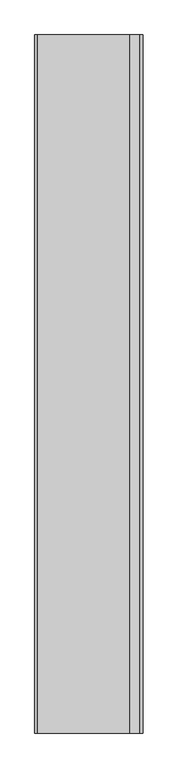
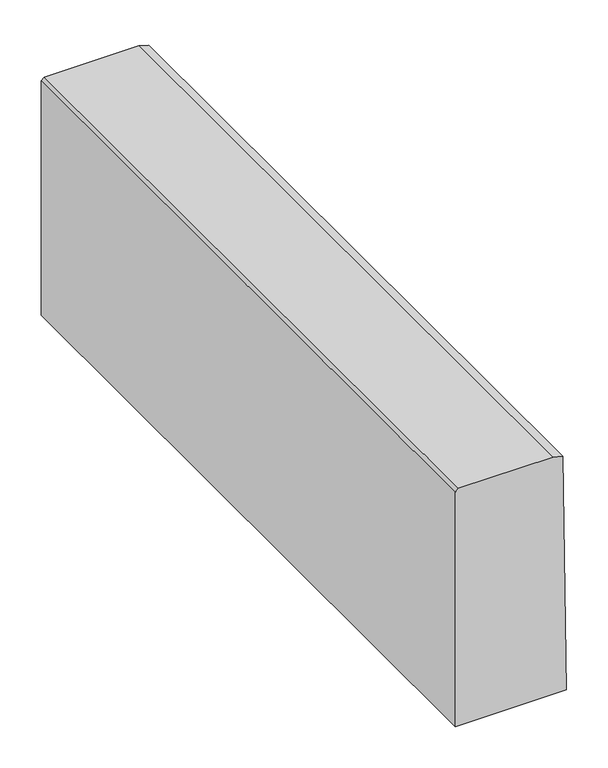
"""IFC4 building model written with IfcOpenShell, lengths in millimetres: railing geometry, BORDILLO_A81_TITAN_80x35x15."""

import ifcopenshell
import ifcopenshell.guid

model = None  # the IFC model being written
_history = None  # IfcOwnerHistory: only IFC2X3 demands one
_inside = {}  # id of a spatial element -> (the spatial element, [elements in it])
_under = {}  # id of a project, library or spatial element -> (it, [spatial elements below it])
_declared = {}  # id of a project -> (the project, [libraries it declares])
_typed = {}  # id of a type object -> (the type object, [elements of that type])
_made_of = {}  # id of a material, layer set ... -> (it, [elements and type objects made of it])


def new_model(schema):
    """Start an empty IFC model of exactly this schema.

    Asked for "IFC4X3", IfcOpenShell would pick the latest addendum, in which some entities
    have other attributes; the version numbers below select the first issue.
    IFC2X3 requires an IfcOwnerHistory on every rooted entity: one is made here for all.
    """
    global model, _history
    if schema == "IFC4X3":
        model = ifcopenshell.file(schema_version=(4, 3, 0, 0))
    else:
        model = ifcopenshell.file(schema=schema)
    _inside.clear()
    _under.clear()
    _declared.clear()
    _typed.clear()
    _made_of.clear()
    _history = None
    if model.schema == "IFC2X3":
        org = make("IfcOrganization", Name="unknown")
        user = make(
            "IfcPersonAndOrganization",
            ThePerson=make("IfcPerson", FamilyName="unknown"),
            TheOrganization=org,
        )
        app = make(
            "IfcApplication",
            ApplicationDeveloper=org,
            Version="unknown",
            ApplicationFullName="unknown",
            ApplicationIdentifier="unknown",
        )
        _history = make(
            "IfcOwnerHistory",
            OwningUser=user,
            OwningApplication=app,
            ChangeAction="ADDED",
            CreationDate=0,
        )
    return model


def make(cls, **values):
    """One entity of the class cls with the attributes given. An attribute that is None is left unset."""
    return model.create_entity(
        cls, **{name: value for name, value in values.items() if value is not None}
    )


def rooted(cls, **values):
    """An entity with a GlobalId (a new one), such as an element, a storey or a relation."""
    return make(cls, GlobalId=ifcopenshell.guid.new(), OwnerHistory=_history, **values)


def si_unit(unit_type, name, prefix=None):
    """IfcSIUnit, for example si_unit("LENGTHUNIT", "METRE", prefix="MILLI")."""
    return make("IfcSIUnit", UnitType=unit_type, Prefix=prefix, Name=name)


def assignment(units):
    """IfcUnitAssignment: the units of a project."""
    return None if units is None else make("IfcUnitAssignment", Units=units)


def point(xyz):
    """IfcCartesianPoint."""
    return None if xyz is None else make("IfcCartesianPoint", Coordinates=xyz)


def direction(xyz):
    """IfcDirection."""
    return None if xyz is None else make("IfcDirection", DirectionRatios=xyz)


def frame(location, z_axis=None, x_axis=None):
    """IfcAxis2Placement3D, a coordinate frame: its origin and axes. An axis left out is left unset."""
    return make(
        "IfcAxis2Placement3D",
        Location=point(location),
        Axis=direction(z_axis),
        RefDirection=direction(x_axis),
    )


def origin():
    """The frame at (0, 0, 0) with its axes left unset."""
    return frame((0.0, 0.0, 0.0))


def place(relative_to, where):
    """IfcLocalPlacement: puts the frame where relative to a parent placement (None: the world)."""
    return make(
        "IfcLocalPlacement", PlacementRelTo=relative_to, RelativePlacement=where
    )


def context(
    kind, dimensions, precision=None, world=None, true_north=None, identifier=None
):
    """IfcGeometricRepresentationContext, for example the 3D "Model" context."""
    return make(
        "IfcGeometricRepresentationContext",
        ContextIdentifier=identifier,
        ContextType=kind,
        CoordinateSpaceDimension=dimensions,
        Precision=precision,
        WorldCoordinateSystem=world,
        TrueNorth=true_north,
    )


def project(units=None, contexts=None):
    """IfcProject with its units and contexts."""
    return rooted(
        "IfcProject",
        Name="project",
        RepresentationContexts=contexts,
        UnitsInContext=assignment(units),
    )


def spatial(cls, under=None, at=None, **own):
    """A site, building, storey or space (cls), placed at a placement, below another one or the project."""
    s = rooted(cls, ObjectPlacement=at, **own)
    if under is not None:
        _under.setdefault(under.id(), (under, []))[1].append(s)
    return s


def polyline(points):
    """IfcPolyline through the points."""
    return make("IfcPolyline", Points=[point(p) for p in points])


def outline(outer, holes=None, kind="AREA"):
    """IfcArbitraryClosedProfileDef: a profile drawn as a closed curve; with holes, ...WithVoids."""
    if holes is None:
        return make("IfcArbitraryClosedProfileDef", ProfileType=kind, OuterCurve=outer)
    return make(
        "IfcArbitraryProfileDefWithVoids",
        ProfileType=kind,
        OuterCurve=outer,
        InnerCurves=holes,
    )


def extrude(swept, where, along, depth):
    """IfcExtrudedAreaSolid: the profile swept, set in the frame where, extruded along a direction by depth."""
    return make(
        "IfcExtrudedAreaSolid",
        SweptArea=swept,
        Position=where,
        ExtrudedDirection=direction(along),
        Depth=depth,
    )


def shape(context_of_items, identifier, shape_type, items):
    """IfcShapeRepresentation: the items that make up one representation, for example the "Body"."""
    return make(
        "IfcShapeRepresentation",
        ContextOfItems=context_of_items,
        RepresentationIdentifier=identifier,
        RepresentationType=shape_type,
        Items=items,
    )


def source(mapping_origin, context_of_items, identifier, shape_type, items):
    """IfcRepresentationMap: a shape defined once, which mapped items show again and again."""
    return make(
        "IfcRepresentationMap",
        MappingOrigin=mapping_origin,
        MappedRepresentation=shape(context_of_items, identifier, shape_type, items),
    )


def transform(
    local_origin,
    x_axis=None,
    y_axis=None,
    z_axis=None,
    scale=None,
    scale2=None,
    scale3=None,
    uniform=True,
):
    """IfcCartesianTransformationOperator3D, or its non-uniform kind. x_axis, y_axis, z_axis: its Axis1, 2, 3."""
    if uniform:
        return make(
            "IfcCartesianTransformationOperator3D",
            Axis1=direction(x_axis),
            Axis2=direction(y_axis),
            LocalOrigin=point(local_origin),
            Scale=scale,
            Axis3=direction(z_axis),
        )
    return make(
        "IfcCartesianTransformationOperator3DnonUniform",
        Axis1=direction(x_axis),
        Axis2=direction(y_axis),
        LocalOrigin=point(local_origin),
        Scale=scale,
        Axis3=direction(z_axis),
        Scale2=scale2,
        Scale3=scale3,
    )


def mapped(mapping_source, mapping_target):
    """IfcMappedItem: shows the shape of a source again, moved by a transform."""
    return make(
        "IfcMappedItem", MappingSource=mapping_source, MappingTarget=mapping_target
    )


def made_of(thing, what):
    """Note that an element or type object is made of a material, layer set ...; save() writes the relation."""
    if what is not None:
        _made_of.setdefault(what.id(), (what, []))[1].append(thing)
    return thing


def element(
    cls,
    number,
    at=None,
    inside=None,
    cuts=None,
    type_object=None,
    material=None,
    context=None,
    identifier="Body",
    shape_type=None,
    held_by="IfcProductDefinitionShape",
    body=None,
    shapes=None,
    **own,
):
    """One element of the class cls, such as IfcWall. Its Tag is "e" and its number.

    at: its placement. inside: the storey or other place that contains it. cuts: it is an
    opening in that element (IfcRelVoidsElement). A single representation is given by context,
    identifier, shape_type and body (its items); several are given by shapes. held_by: the class
    of the entity that holds the representations. save() writes the other relations.
    """
    e = rooted(cls, Tag="e%d" % number, ObjectPlacement=at, **own)
    if body is not None:
        shapes = [shape(context, identifier, shape_type, body)]
    if shapes is not None:
        e.Representation = make(held_by, Representations=shapes)
    if inside is not None:
        _inside.setdefault(inside.id(), (inside, []))[1].append(e)
    if cuts is not None:
        rooted(
            "IfcRelVoidsElement", RelatingBuildingElement=cuts, RelatedOpeningElement=e
        )
    if type_object is not None:
        _typed.setdefault(type_object.id(), (type_object, []))[1].append(e)
    return made_of(e, material)


def aggregate(whole, parts):
    """IfcRelAggregates: a whole, such as a stair, and the parts it consists of."""
    return rooted("IfcRelAggregates", RelatingObject=whole, RelatedObjects=parts)


def save(model, path):
    """Write the relations noted so far, then the file.

    IfcRelAggregates (storeys below a building ...), IfcRelContainedInSpatialStructure (elements
    in a storey), IfcRelDefinesByType, IfcRelAssociatesMaterial and IfcRelDeclares: one each for
    every whole, place, type object, material and project.
    """
    for whole, parts in _under.values():
        aggregate(whole, parts)
    for where, things in _inside.values():
        rooted(
            "IfcRelContainedInSpatialStructure",
            RelatedElements=things,
            RelatingStructure=where,
        )
    for kind, things in _typed.values():
        rooted("IfcRelDefinesByType", RelatedObjects=things, RelatingType=kind)
    for what, things in _made_of.values():
        rooted("IfcRelAssociatesMaterial", RelatedObjects=things, RelatingMaterial=what)
    for by, libraries in _declared.values():
        rooted("IfcRelDeclares", RelatingContext=by, RelatedDefinitions=libraries)
    model.write(path)


def railing_1ba426a0(model_context):
    return source(origin(), model_context, "Body", "SweptSolid", [
        extrude(outline(polyline([(0.0, -2763.993975), (0.0, -2608.993975), (346.0, -2613.993975), (350.0, -2627.993975), (350.0, -2759.993975), (346.0, -2763.993975), (0.0, -2763.993975)])), frame((0.0, 3056.2300366, 0.0), z_axis=(0.0, 1.0, 0.0), x_axis=(0.0, 0.0, 1.0)), (0.0, 0.0, 1.0), 1000.0),
    ])


if __name__ == "__main__":
    model = new_model("IFC4")
    model_context = context("Model", 3, world=origin())
    ifc_project = project(units=[si_unit("LENGTHUNIT", "METRE", prefix="MILLI")], contexts=[model_context])
    site = spatial("IfcSite", under=ifc_project)
    building = spatial("IfcBuilding", under=site)
    placement = place(None, origin())
    railing_shape = railing_1ba426a0(model_context)
    element("IfcRailing", 1, ObjectType="BORDILLO_A81_TITAN_80x35x15", at=placement, inside=building, context=model_context, shape_type="MappedRepresentation", body=[
        mapped(railing_shape, transform((0.0, 0.0, 0.0), x_axis=(1.0, 0.0, 0.0), y_axis=(0.0, 1.0, 0.0), z_axis=(0.0, 0.0, 1.0))),
    ])
    save(model, "model.ifc")
